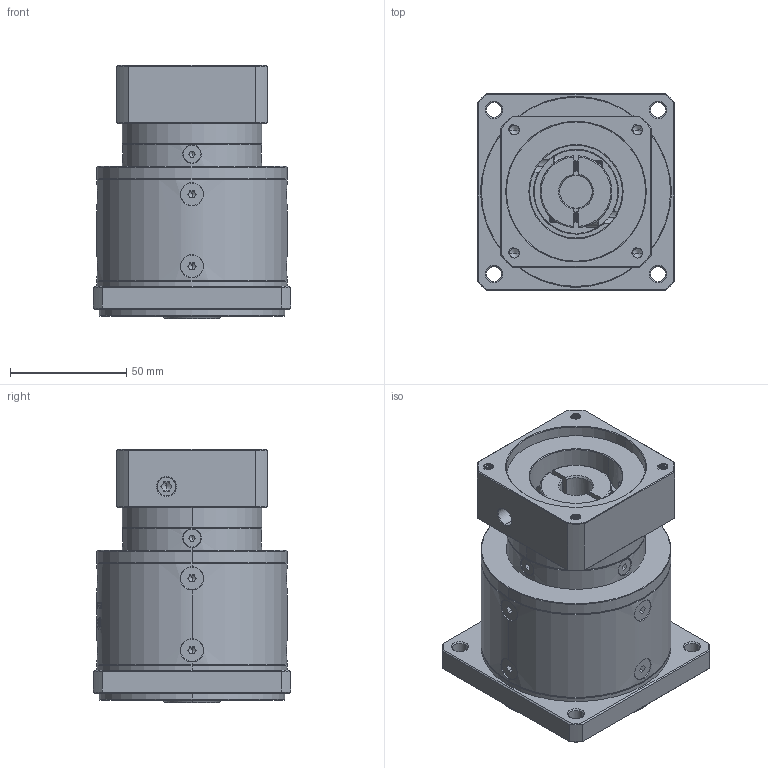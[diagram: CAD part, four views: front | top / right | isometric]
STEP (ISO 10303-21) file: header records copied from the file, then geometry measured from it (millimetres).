
FILE_DESCRIPTION (( 'STEP AP214' ), '1' );
FILE_NAME ('ZF80-K15-L2-14-60-75-M5.step', '2022-09-16T05:40:59', ( '' ), ( 'Microsoft' ), 'SwSTEP 2.0', 'SolidWorks 2016', '' );
FILE_SCHEMA (( 'AUTOMOTIVE_DESIGN' ));
Length unit declared in the file: millimetre
Products named in the file (1): ZF80-K15-L2-14-60-75-M5
Bounding box: 85 x 85 x 109 mm (x, y, z)
Volume: 465379.4 mm3; surface area: 68816.2 mm2
Topology: 18 solids, 18 shells, 1997 faces, 5226 edges, 3325 vertices
Faces by surface type: plane 946, cylinder 398, cone 321, bspline 318, torus 14
Entity records: 104847 total; most frequent: CARTESIAN_POINT 37085, ORIENTED_EDGE 10380, DIRECTION 8324, EDGE_CURVE 5190, VERTEX_POINT 3325, LINE 2828, VECTOR 2828, AXIS2_PLACEMENT_3D 2748
